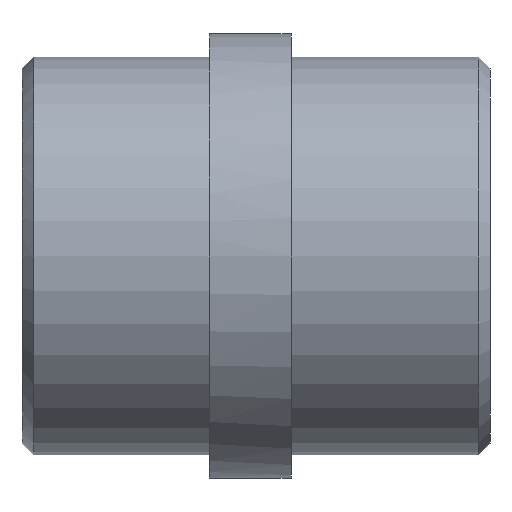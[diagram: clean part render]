
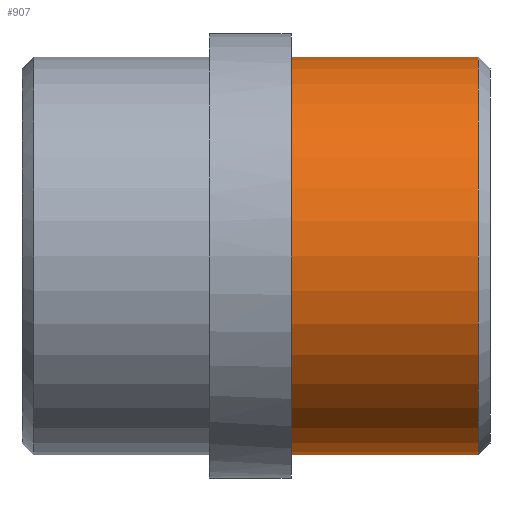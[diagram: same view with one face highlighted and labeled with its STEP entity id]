
A CAD part, front view. The second image highlights one B-rep face of the part: STEP entity #907.
In plain terms, the highlighted cylindrical face has radius 17 mm (diameter 34 mm), a partial arc.
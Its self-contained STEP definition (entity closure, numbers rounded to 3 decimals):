
#773=CARTESIAN_POINT('Vertex',(0.,0.,-17.)) ;
#778=CARTESIAN_POINT('Axis2P3D Location',(0.,0.,0.)) ;
#782=CARTESIAN_POINT('Vertex',(0.,-17.,0.)) ;
#785=CARTESIAN_POINT('Axis2P3D Location',(0.,0.,0.)) ;
#789=CARTESIAN_POINT('Vertex',(0.,0.,17.)) ;
#813=CARTESIAN_POINT('Vertex',(16.,0.,17.)) ;
#820=CARTESIAN_POINT('Vertex',(16.,0.,-17.)) ;
#849=CARTESIAN_POINT('Axis2P3D Location',(16.,0.,0.)) ;
#853=CARTESIAN_POINT('Vertex',(16.,-17.,0.)) ;
#856=CARTESIAN_POINT('Axis2P3D Location',(16.,0.,0.)) ;
#875=CARTESIAN_POINT('Line Origine',(17.,0.,17.)) ;
#880=CARTESIAN_POINT('Line Origine',(17.,0.,-17.)) ;
#894=CARTESIAN_POINT('Axis2P3D Location',(17.,0.,0.)) ;
#779=DIRECTION('Axis2P3D Direction',(1.,0.,-0.)) ;
#786=DIRECTION('Axis2P3D Direction',(1.,0.,-0.)) ;
#850=DIRECTION('Axis2P3D Direction',(-1.,0.,0.)) ;
#857=DIRECTION('Axis2P3D Direction',(-1.,0.,0.)) ;
#876=DIRECTION('Vector Direction',(-1.,0.,0.)) ;
#881=DIRECTION('Vector Direction',(-1.,0.,0.)) ;
#895=DIRECTION('Axis2P3D Direction',(-1.,-0.,-0.)) ;
#896=DIRECTION('Axis2P3D XDirection',(0.,0.,-1.)) ;
#780=AXIS2_PLACEMENT_3D('Circle Axis2P3D',#778,#779,$) ;
#787=AXIS2_PLACEMENT_3D('Circle Axis2P3D',#785,#786,$) ;
#851=AXIS2_PLACEMENT_3D('Circle Axis2P3D',#849,#850,$) ;
#858=AXIS2_PLACEMENT_3D('Circle Axis2P3D',#856,#857,$) ;
#897=AXIS2_PLACEMENT_3D('Cylinder Axis2P3D',#894,#895,#896) ;
#900=ORIENTED_EDGE('',*,*,#884,.T.) ;
#901=ORIENTED_EDGE('',*,*,#860,.F.) ;
#902=ORIENTED_EDGE('',*,*,#855,.F.) ;
#903=ORIENTED_EDGE('',*,*,#879,.T.) ;
#904=ORIENTED_EDGE('',*,*,#791,.T.) ;
#905=ORIENTED_EDGE('',*,*,#784,.T.) ;
#877=VECTOR('Line Direction',#876,1.) ;
#882=VECTOR('Line Direction',#881,1.) ;
#907=ADVANCED_FACE('355-25X40',(#906),#898,.T.) ;
#781=CIRCLE('generated circle',#780,17.) ;
#788=CIRCLE('generated circle',#787,17.) ;
#852=CIRCLE('generated circle',#851,17.) ;
#859=CIRCLE('generated circle',#858,17.) ;
#898=CYLINDRICAL_SURFACE('generated cylinder',#897,17.) ;
#784=EDGE_CURVE('',#783,#774,#781,.T.) ;
#791=EDGE_CURVE('',#790,#783,#788,.T.) ;
#855=EDGE_CURVE('',#814,#854,#852,.F.) ;
#860=EDGE_CURVE('',#854,#821,#859,.F.) ;
#879=EDGE_CURVE('',#814,#790,#878,.T.) ;
#884=EDGE_CURVE('',#774,#821,#883,.F.) ;
#899=EDGE_LOOP('',(#900,#901,#902,#903,#904,#905)) ;
#906=FACE_OUTER_BOUND('',#899,.T.) ;
#878=LINE('Line',#875,#877) ;
#883=LINE('Line',#880,#882) ;
#774=VERTEX_POINT('',#773) ;
#783=VERTEX_POINT('',#782) ;
#790=VERTEX_POINT('',#789) ;
#814=VERTEX_POINT('',#813) ;
#821=VERTEX_POINT('',#820) ;
#854=VERTEX_POINT('',#853) ;
